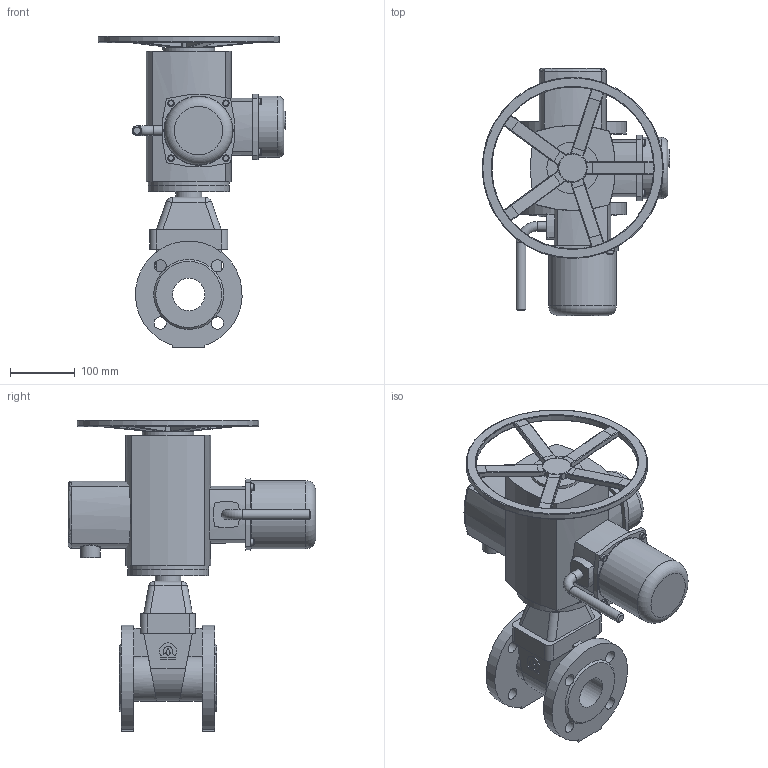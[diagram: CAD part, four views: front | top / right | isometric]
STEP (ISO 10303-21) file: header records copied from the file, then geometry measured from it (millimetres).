
FILE_DESCRIPTION(('STEP AP203'), '1');
FILE_NAME('青溻桄赅 47GVA DN50 PN10_PN16+MT903.Z05', '', ('UNSPECIFIED'), ('UNSPECIFIED'), 'ASCON STEP Converter 1.6', 'ASCON Math Kernel', '');
FILE_SCHEMA(('CONFIG_CONTROL_DESIGN'));
Length unit declared in the file: millimetre
Bounding box: 290 x 382 x 481.5 mm (x, y, z)
Volume: 8342822.8 mm3; surface area: 566992.6 mm2
Topology: 2 solids, 2 shells, 383 faces, 930 edges, 569 vertices
Faces by surface type: cylinder 182, plane 163, torus 25, cone 7, bspline 6
Full cylindrical faces by diameter (mm): 8.376 x4, 10 x8, 12 x4, 15 x2, 18 x1, 19 x8, 24 x1, 28 x2, 29.22 x1, 30 x1, 40 x1, 50 x1, 70 x2, 80 x1, 95 x1, 105 x1, 125 x2, 280 x1
Entity records: 18879 total; most frequent: CARTESIAN_POINT 7524, ORIENTED_EDGE 1696, DIRECTION 1625, EDGE_CURVE 848, AXIS2_PLACEMENT_3D 639, VERTEX_POINT 563, EDGE_LOOP 513, FACE_BOUND 387
